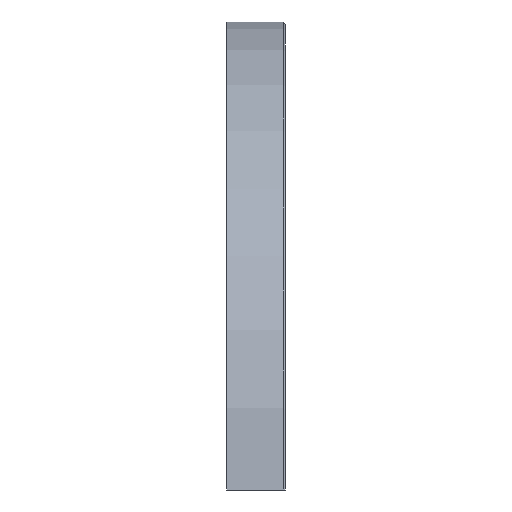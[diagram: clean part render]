
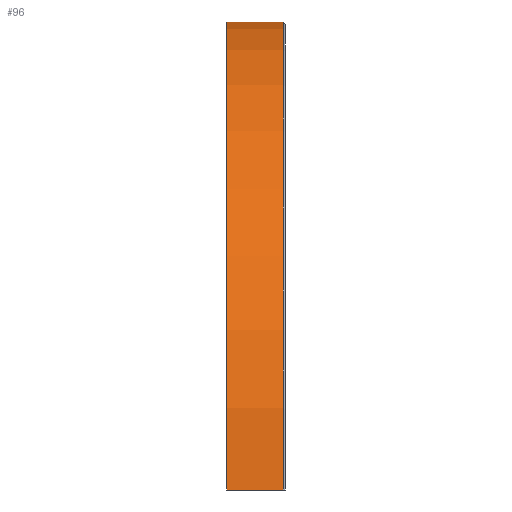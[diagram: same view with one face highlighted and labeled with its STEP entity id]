
A CAD part, left-side view. The second image highlights one B-rep face of the part: STEP entity #96.
In plain terms, the highlighted cylindrical face has radius 80.5 mm (diameter 161 mm), a partial arc.
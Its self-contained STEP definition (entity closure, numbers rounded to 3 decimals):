
#96=ADVANCED_FACE('',(#130),#131,.T.);
#130=FACE_OUTER_BOUND('',#202,.T.);
#131=CYLINDRICAL_SURFACE('',#203,80.5);
#202=EDGE_LOOP('',(#297,#298,#299,#300));
#203=AXIS2_PLACEMENT_3D('',#301,#302,#303);
#297=ORIENTED_EDGE('',*,*,#447,.F.);
#298=ORIENTED_EDGE('',*,*,#467,.T.);
#299=ORIENTED_EDGE('',*,*,#468,.F.);
#300=ORIENTED_EDGE('',*,*,#461,.T.);
#301=CARTESIAN_POINT('',(0.0,0.0,0.0));
#302=DIRECTION('',(0.0,-1.0,0.0));
#303=DIRECTION('',(0.0,0.0,-1.0));
#447=EDGE_CURVE('',#499,#501,#502,.F.);
#461=EDGE_CURVE('',#527,#501,#528,.T.);
#467=EDGE_CURVE('',#499,#538,#539,.F.);
#468=EDGE_CURVE('',#527,#538,#540,.T.);
#499=VERTEX_POINT('',#591);
#501=VERTEX_POINT('',#596);
#502=LINE('',#597,#598);
#527=VERTEX_POINT('',#650);
#528=CIRCLE('',#651,80.5);
#538=VERTEX_POINT('',#662);
#539=CIRCLE('',#663,80.5);
#540=LINE('',#664,#665);
#591=CARTESIAN_POINT('',(-80.494,0.4,1.0));
#596=CARTESIAN_POINT('',(-80.494,10.0,1.0));
#597=CARTESIAN_POINT('',(-80.494,0.0,1.0));
#598=VECTOR('',#736,1.0);
#650=CARTESIAN_POINT('',(80.494,10.0,1.0));
#651=AXIS2_PLACEMENT_3D('',#749,#750,#751);
#662=CARTESIAN_POINT('',(80.494,0.4,1.0));
#663=AXIS2_PLACEMENT_3D('',#765,#766,#767);
#664=CARTESIAN_POINT('',(80.494,0.0,1.0));
#665=VECTOR('',#768,1.0);
#736=DIRECTION('',(0.0,-1.0,0.0));
#749=CARTESIAN_POINT('',(0.0,10.0,0.0));
#750=DIRECTION('',(0.0,-1.0,0.0));
#751=DIRECTION('',(0.0,0.0,-1.0));
#765=CARTESIAN_POINT('',(0.0,0.4,0.0));
#766=DIRECTION('',(0.0,-1.0,0.0));
#767=DIRECTION('',(0.0,0.0,-1.0));
#768=DIRECTION('',(0.0,-1.0,0.0));
